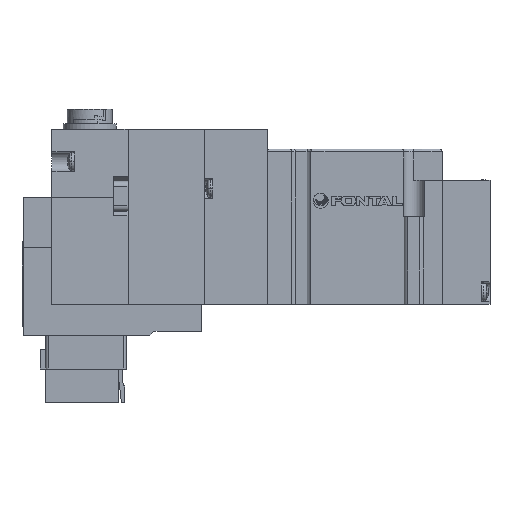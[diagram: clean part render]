
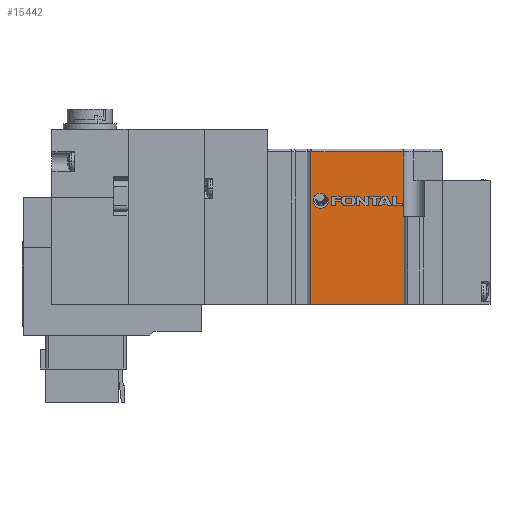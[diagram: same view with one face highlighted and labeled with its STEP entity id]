
A CAD part, top view. The second image highlights one B-rep face of the part: STEP entity #15442.
In plain terms, the highlighted planar face has unit normal (0, 0, 1).
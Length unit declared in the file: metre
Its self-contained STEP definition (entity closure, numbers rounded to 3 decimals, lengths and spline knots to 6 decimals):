
#1011 = CARTESIAN_POINT ( 'NONE',  ( 0.0087, 0.0155, 0.005 ) ) ;
#1367 = LINE ( 'NONE', #14954, #11670 ) ;
#3316 = DIRECTION ( 'NONE',  ( 0., -1., 0. ) ) ;
#3553 = VECTOR ( 'NONE', #12286, 1. ) ;
#4482 = DIRECTION ( 'NONE',  ( 0., 1., 0. ) ) ;
#4889 = ORIENTED_EDGE ( 'NONE', *, *, #8012, .F. ) ;
#5039 = DIRECTION ( 'NONE',  ( 0., -1., 0. ) ) ;
#5157 = VERTEX_POINT ( 'NONE', #9997 ) ;
#5250 = EDGE_CURVE ( 'NONE', #16648, #7136, #15744, .T. ) ;
#5813 = EDGE_CURVE ( 'NONE', #16216, #16648, #15962, .T. ) ;
#5951 = VERTEX_POINT ( 'NONE', #16203 ) ;
#6165 = CARTESIAN_POINT ( 'NONE',  ( 0.000466, 0.027, 0.005 ) ) ;
#6651 = CARTESIAN_POINT ( 'NONE',  ( 0.008768, 0., 0.005 ) ) ;
#6889 = DIRECTION ( 'NONE',  ( 1., 0., 0. ) ) ;
#6936 = CARTESIAN_POINT ( 'NONE',  ( 0.0105, 0.0155, 0.005 ) ) ;
#7116 = CARTESIAN_POINT ( 'NONE',  ( 0.0005, 0., 0.005 ) ) ;
#7136 = VERTEX_POINT ( 'NONE', #6651 ) ;
#7256 = DIRECTION ( 'NONE',  ( 0., 0., -1. ) ) ;
#7425 = EDGE_CURVE ( 'NONE', #9960, #16216, #1367, .T. ) ;
#7944 = VECTOR ( 'NONE', #4482, 1. ) ;
#8012 = EDGE_CURVE ( 'NONE', #7136, #5157, #13488, .T. ) ;
#8288 = CARTESIAN_POINT ( 'NONE',  ( -0.007768, 0.0135, 0.005 ) ) ;
#8332 = LINE ( 'NONE', #8288, #7944 ) ;
#8427 = ORIENTED_EDGE ( 'NONE', *, *, #14831, .F. ) ;
#8847 = VECTOR ( 'NONE', #5039, 1. ) ;
#9960 = VERTEX_POINT ( 'NONE', #15639 ) ;
#9997 = CARTESIAN_POINT ( 'NONE',  ( -0.007768, 0., 0.005 ) ) ;
#10120 = ORIENTED_EDGE ( 'NONE', *, *, #5813, .F. ) ;
#10840 = EDGE_LOOP ( 'NONE', ( #12158, #8427, #4889, #12911, #10120, #11620 ) ) ;
#11106 = CARTESIAN_POINT ( 'NONE',  ( 0.008768, 0., 0.005 ) ) ;
#11478 = CARTESIAN_POINT ( 'NONE',  ( 0.008768, 0.0135, 0.005 ) ) ;
#11620 = ORIENTED_EDGE ( 'NONE', *, *, #7425, .F. ) ;
#11670 = VECTOR ( 'NONE', #3316, 1. ) ;
#12002 = VECTOR ( 'NONE', #15200, 1. ) ;
#12158 = ORIENTED_EDGE ( 'NONE', *, *, #15035, .T. ) ;
#12286 = DIRECTION ( 'NONE',  ( -1., 0., 0. ) ) ;
#12911 = ORIENTED_EDGE ( 'NONE', *, *, #5250, .F. ) ;
#12916 = AXIS2_PLACEMENT_3D ( 'NONE', #11106, #7256, #16317 ) ;
#13488 = LINE ( 'NONE', #7116, #3553 ) ;
#13581 = CARTESIAN_POINT ( 'NONE',  ( 0.008768, 0.0155, 0.005 ) ) ;
#14831 = EDGE_CURVE ( 'NONE', #5157, #5951, #8332, .T. ) ;
#14954 = CARTESIAN_POINT ( 'NONE',  ( 0.0087, 0.0135, 0.005 ) ) ;
#15035 = EDGE_CURVE ( 'NONE', #9960, #5951, #15831, .T. ) ;
#15200 = DIRECTION ( 'NONE',  ( -1., 0., 0. ) ) ;
#15442 = ADVANCED_FACE ( 'NONE', ( #16220 ), #16260, .F. ) ;
#15553 = VECTOR ( 'NONE', #6889, 1. ) ;
#15639 = CARTESIAN_POINT ( 'NONE',  ( 0.0087, 0.027, 0.005 ) ) ;
#15744 = LINE ( 'NONE', #11478, #8847 ) ;
#15831 = LINE ( 'NONE', #6165, #12002 ) ;
#15962 = LINE ( 'NONE', #6936, #15553 ) ;
#16203 = CARTESIAN_POINT ( 'NONE',  ( -0.007768, 0.027, 0.005 ) ) ;
#16216 = VERTEX_POINT ( 'NONE', #1011 ) ;
#16220 = FACE_OUTER_BOUND ( 'NONE', #10840, .T. ) ;
#16260 = PLANE ( 'NONE',  #12916 ) ;
#16317 = DIRECTION ( 'NONE',  ( -1., 0., 0. ) ) ;
#16648 = VERTEX_POINT ( 'NONE', #13581 ) ;
